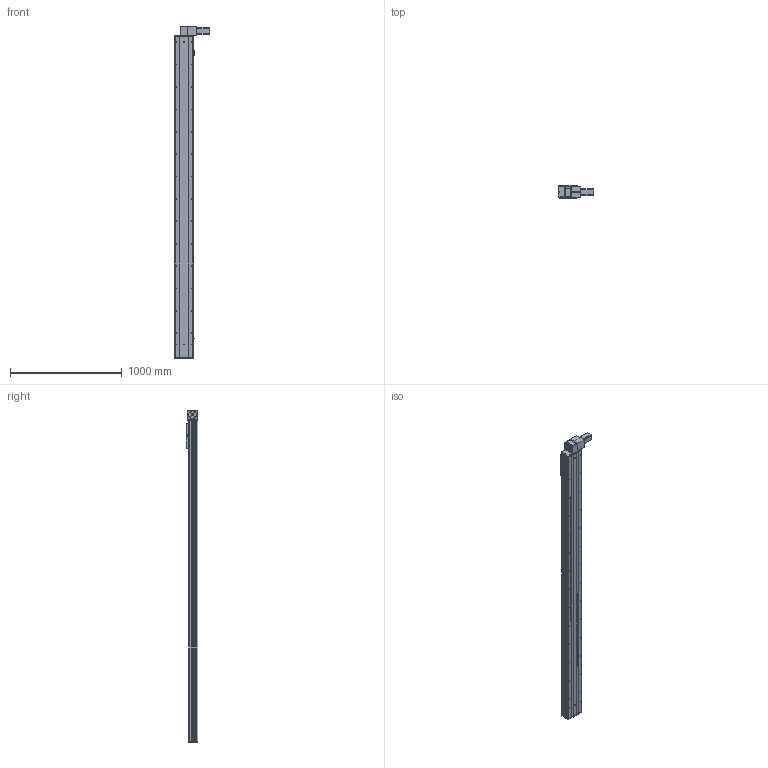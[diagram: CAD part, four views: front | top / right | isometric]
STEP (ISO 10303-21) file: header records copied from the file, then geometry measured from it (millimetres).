
FILE_DESCRIPTION (( 'STEP AP203' ), '1' );
FILE_NAME ('Y170CB-D105-S2550-BD-P400W.STEP', '2020-02-20T09:12:55', ( '微软用户' ), ( '微软中国' ), 'SwSTEP 2.0', 'SolidWorks 2017', '' );
FILE_SCHEMA (( 'CONFIG_CONTROL_DESIGN' ));
Length unit declared in the file: millimetre
Products named in the file (16): 0B薊粣ん眊-400W--; 70CB--耜裔; Y170CB-D105-S2550-BD-P400W; 70C-雄赽釱-奻-; 0C--雄赽釱俋欶-170; B-源倛裔啣; 70CB-詩湍--; san松下电机400不带刹车----; Y100-135俋离換覜ん--; 70CB-掛极-; Y170CB-陔俋离換覜結え---; --70CB --喘謫眊楊擘啣-; Y1埴倛裔; 70CB-耜裔啣-; 70B喘謫眊----; 70C--詩湍揤踡え-
Assembly tree (19 placements, depth 2):
  Y170CB-D105-S2550-BD-P400W
    B-源倛裔啣
    san松下电机400不带刹车----
    70CB-掛极-
    --70CB --喘謫眊楊擘啣-
    70CB-耜裔啣-  x2
    70C--詩湍揤踡え-  x2
    70CB--耜裔
    70C-雄赽釱-奻-
    0C--雄赽釱俋欶-170
    70CB-詩湍--
    Y100-135俋离換覜ん--  x3
    Y170CB-陔俋离換覜結え---
    Y1埴倛裔
    70B喘謫眊----
    0B薊粣ん眊-400W--
Bounding box: 313.5 x 107 x 2966 mm (x, y, z)
Volume: 12929431.8 mm3; surface area: 4538072.7 mm2
Topology: 19 solids, 19 shells, 984 faces, 2618 edges, 1736 vertices
Faces by surface type: cylinder 538, plane 422, cone 24
Entity records: 31055 total; most frequent: CARTESIAN_POINT 5806, DIRECTION 5055, ORIENTED_EDGE 4718, EDGE_CURVE 2359, AXIS2_PLACEMENT_3D 1881, VERTEX_POINT 1566, VECTOR 1293, LINE 1293
